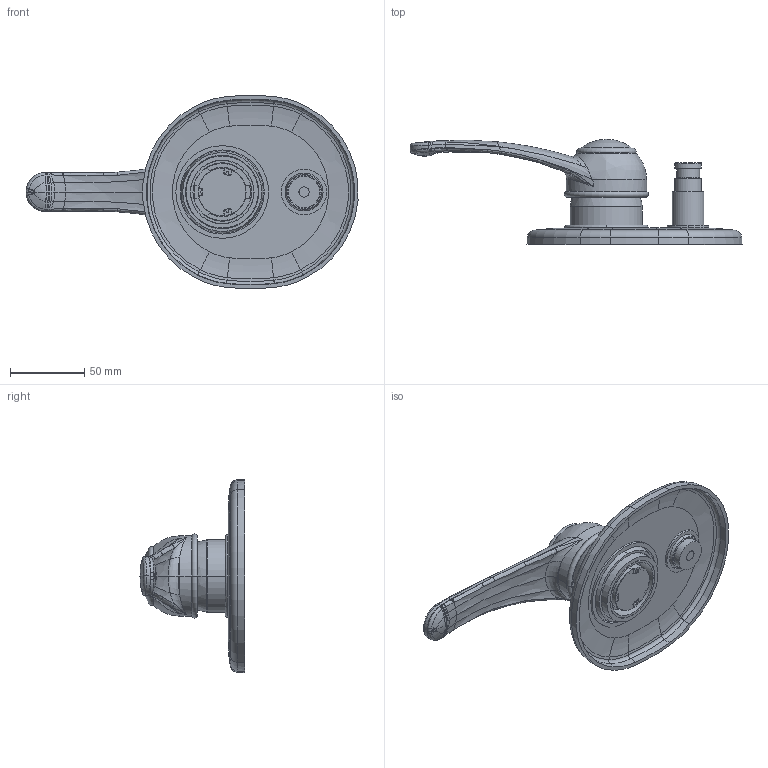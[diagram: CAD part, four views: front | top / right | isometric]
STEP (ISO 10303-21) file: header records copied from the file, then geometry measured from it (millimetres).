
FILE_DESCRIPTION((''),'2;1');
FILE_NAME('29010_SW0001','2026-05-15T15:21:22',('carloff'),(''),'CREO PARAMETRIC BY PTC INC, 2022014','CREO PARAMETRIC BY PTC INC, 2022014','');
FILE_SCHEMA(('CONFIG_CONTROL_DESIGN'));
Products named in the file (1): 29010_SW0001
Bounding box: 223.14 x 70.63 x 129.8 mm (x, y, z)
Volume: 143344.7 mm3; surface area: 109379.6 mm2
Topology: 4 solids, 4 shells, 1790 faces, 4806 edges, 2991 vertices
Faces by surface type: plane 580, cylinder 548, bspline 297, torus 215, cone 108, sphere 42
Entity records: 72752 total; most frequent: CARTESIAN_POINT 29557, ORIENTED_EDGE 9596, DIRECTION 8570, EDGE_CURVE 4798, AXIS2_PLACEMENT_3D 3334, VERTEX_POINT 2991, VECTOR 1902, LINE 1902
